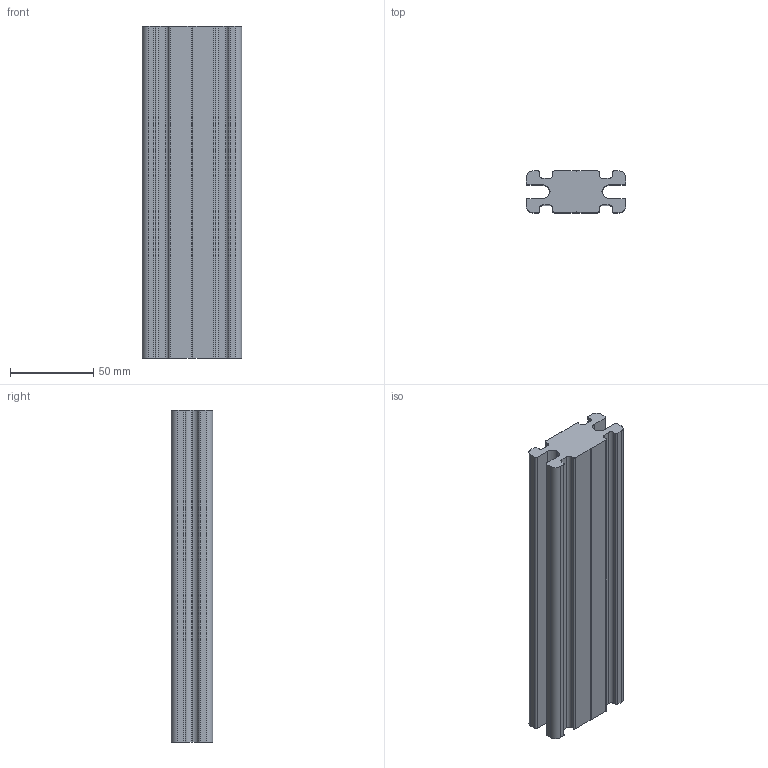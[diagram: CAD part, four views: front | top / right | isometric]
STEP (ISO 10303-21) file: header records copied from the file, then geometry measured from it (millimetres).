
FILE_DESCRIPTION((''),'2;1');
FILE_NAME('C:\Vault Klient\Projekt\Step\100-1040.stp','2009-12-10T08:41:43',('Mathias'),(''),'Autodesk Inventor 2010','Autodesk Inventor 2010','');
FILE_SCHEMA(('CONFIG_CONTROL_DESIGN'));
Length unit declared in the file: millimetre
Products named in the file (2): Assembly5; 100-1040-01
Assembly tree (1 placements, depth 2):
  Assembly5
    100-1040-01
Bounding box: 60 x 25 x 200 mm (x, y, z)
Volume: 225819.2 mm3; surface area: 49689.6 mm2
Topology: 1 solids, 1 shells, 66 faces, 192 edges, 128 vertices
Faces by surface type: plane 38, cylinder 28
Entity records: 2244 total; most frequent: CARTESIAN_POINT 389, DIRECTION 386, ORIENTED_EDGE 384, EDGE_CURVE 192, VECTOR 136, LINE 136, VERTEX_POINT 128, AXIS2_PLACEMENT_3D 125
